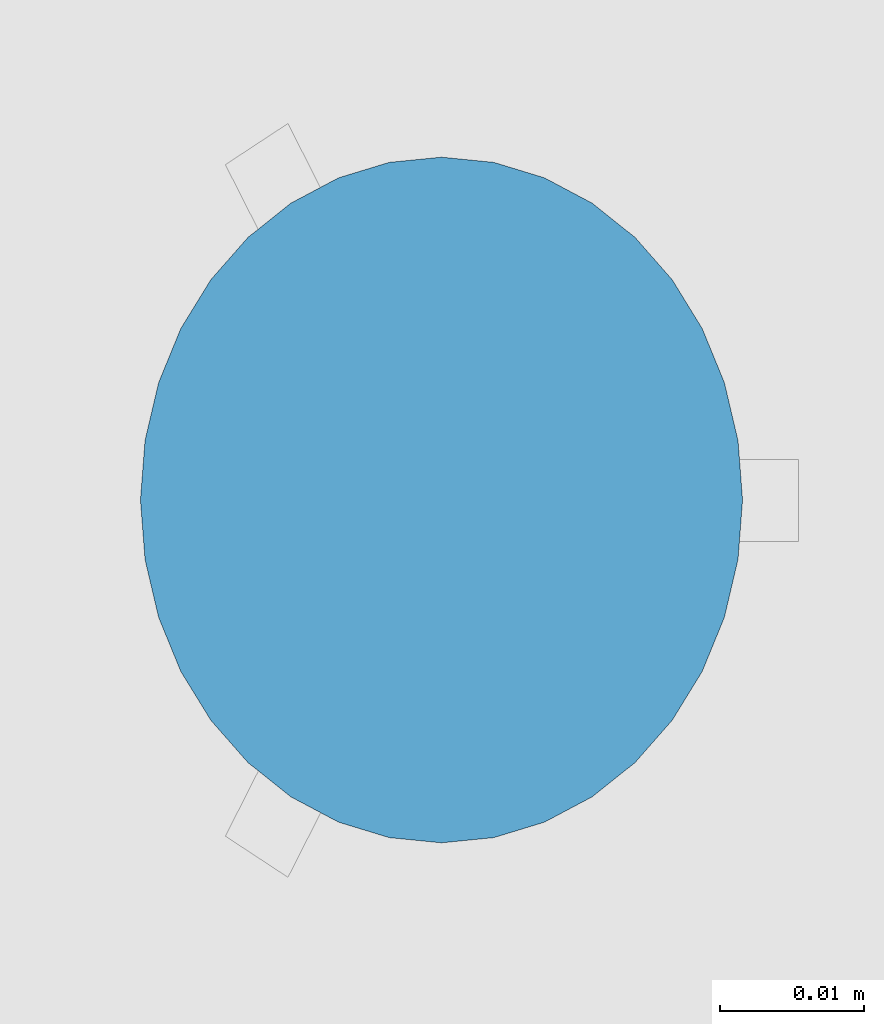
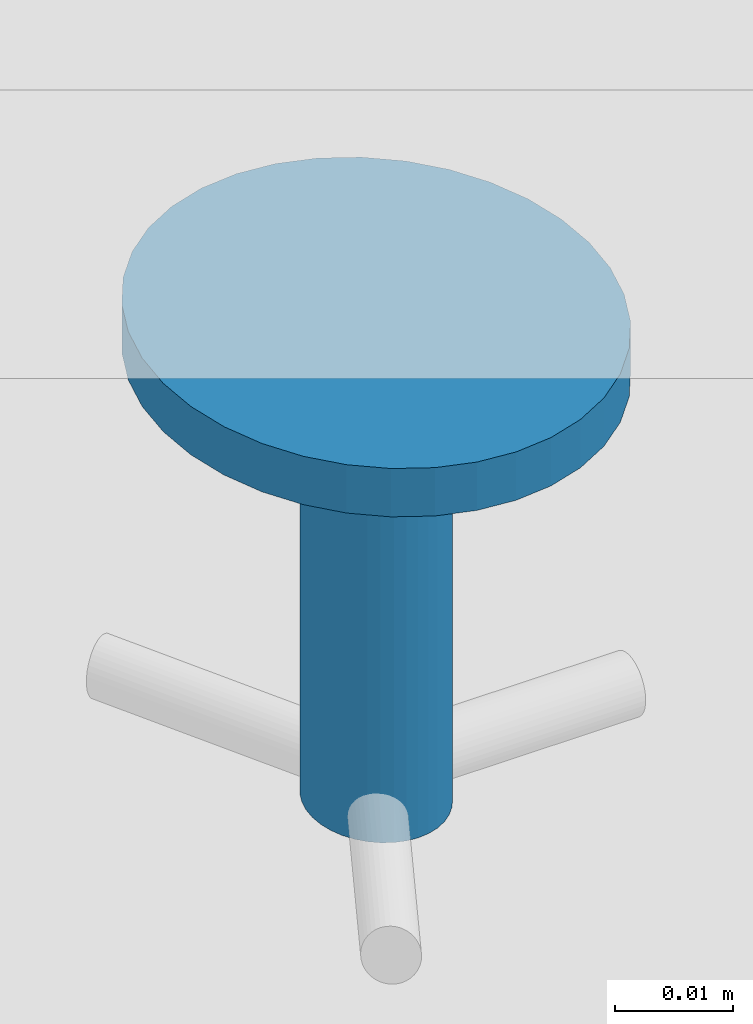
# One storey, part 181 of 788: 1 building element part, 1 element without a shape of its own.
"""IFC2X3 building model written with IfcOpenShell, lengths in millimetres."""

from ifc_helpers import new_model, entity, si_unit, converted_unit, derived_unit, money_unit, direction, frame, origin_with_axes, place, context, subcontext, project, spatial, faceted_brep, source, transform, mapped, material, type_object, element, aggregate, save


model = new_model("IFC2X3")

# Units and contexts
model_context = context("Model", 3, precision=0.01, world=origin_with_axes(), true_north=direction((0.0, 1.0)))
plan_context = context("Plan", 3, precision=0.01, world=origin_with_axes(), true_north=direction((0.0, 1.0)))
body_context = subcontext(model_context, "Body", "Model", "MODEL_VIEW")
ifc_project = project(units=[si_unit("LENGTHUNIT", "METRE", prefix="MILLI"), si_unit("AREAUNIT", "SQUARE_METRE"), si_unit("VOLUMEUNIT", "CUBIC_METRE"), converted_unit("PLANEANGLEUNIT", "DEGREE", entity("IfcPlaneAngleMeasure", 0.0174532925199), si_unit("PLANEANGLEUNIT", "RADIAN"), dimensions=[0, 0, 0, 0, 0, 0, 0]), money_unit("EUR"), converted_unit("TIMEUNIT", "Year", entity("IfcTimeMeasure", 31556926.0), si_unit("TIMEUNIT", "SECOND"), dimensions=[0, 0, 1, 0, 0, 0, 0]), si_unit("MASSUNIT", "GRAM", prefix="KILO"), si_unit("THERMODYNAMICTEMPERATUREUNIT", "DEGREE_CELSIUS"), si_unit("LUMINOUSINTENSITYUNIT", "LUMEN"), si_unit("ENERGYUNIT", "JOULE", prefix="MEGA"), derived_unit("THERMALCONDUCTANCEUNIT", [(si_unit("POWERUNIT", "WATT"), 1), (si_unit("LENGTHUNIT", "METRE"), -1), (si_unit("THERMODYNAMICTEMPERATUREUNIT", "KELVIN"), -1)]), derived_unit("SPECIFICHEATCAPACITYUNIT", [(si_unit("ENERGYUNIT", "JOULE"), 1), (si_unit("MASSUNIT", "GRAM", prefix="KILO"), -1), (si_unit("THERMODYNAMICTEMPERATUREUNIT", "KELVIN"), -1)]), derived_unit("MASSDENSITYUNIT", [(si_unit("MASSUNIT", "GRAM", prefix="KILO"), 1), (si_unit("VOLUMEUNIT", "CUBIC_METRE"), -1)])], contexts=[model_context, plan_context])

# Site, building, storey
site_placement = place(None, origin_with_axes())
site = spatial("IfcSite", under=ifc_project, at=site_placement, Name="Site", CompositionType="ELEMENT")
building_placement = place(site_placement, origin_with_axes())
building = spatial("IfcBuilding", under=site, at=building_placement, Name="Naam gebouw", CompositionType="ELEMENT")
storey_placement = place(building_placement, origin_with_axes())
storey = spatial("IfcBuildingStorey", under=building, at=storey_placement, Name="Begane grond", CompositionType="ELEMENT", Elevation=0.0)

# Proxy, building element part
building_element_proxy_type = type_object("IfcBuildingElementProxyType", Name="plafondhaak", PredefinedType="NOTDEFINED")
proxy_placement = place(storey_placement, frame((11078.5483177, 20515.4627379, 1221.0), z_axis=(0.0, 0.0, 1.0), x_axis=(1.0, 0.0, 0.0)))
proxy = element("IfcBuildingElementProxy", 1, at=proxy_placement, inside=storey, type_object=building_element_proxy_type, Name="garderobehaak")
ifc_material = material(Name="_Dichte arcering")
shared_shape = source(origin_with_axes(), body_context, "Body", "Brep", [
    faceted_brep([(-17.5871200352, 3.81461944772, 50.0), (-17.5871200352, 3.81461944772, 45.0), (-14.2952839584, 5.56266277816, 45.0), (-14.2952839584, 5.56266277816, 50.0), (-21.0954971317, 2.74408618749, 50.0), (-21.0954971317, 2.74408618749, 45.0), (-5.13338153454, 17.9967404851, 45.0), (-6.66838990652, 14.2480494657, 45.0), (-8.75169938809, 10.8598540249, 45.0), (-11.3200096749, 7.93510276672, 45.0), (-24.7138149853, 2.38359060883, 45.0), (-28.3321328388, 2.74408618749, 45.0), (-31.8405099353, 3.81461944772, 45.0), (-35.1323460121, 5.56266277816, 45.0), (-38.1076202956, 7.93510276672, 45.0), (-40.6759305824, 10.8598540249, 45.0), (-42.759240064, 14.2480494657, 45.0), (-44.294248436, 17.9967404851, 45.0), (-45.2343152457, 21.9920250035, 45.0), (-45.550877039, 26.1125083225, 45.0), (-45.2343152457, 30.2329916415, 45.0), (-44.294248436, 34.2282761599, 45.0), (-42.759240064, 37.9769671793, 45.0), (-40.6759305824, 41.3651626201, 45.0), (-38.1076202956, 44.2899138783, 45.0), (-35.1323460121, 46.6623538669, 45.0), (-31.8405099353, 48.4103971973, 45.0), (-28.3321328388, 49.4809304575, 45.0), (-24.7138149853, 49.8414260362, 45.0), (-21.0954971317, 49.4809304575, 45.0), (-17.5871200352, 48.4103971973, 45.0), (-14.2952839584, 46.6623538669, 45.0), (-11.3200096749, 44.2899138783, 45.0), (-8.75169938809, 41.3651626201, 45.0), (-6.66838990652, 37.9769671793, 45.0), (-5.13338153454, 34.2282761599, 45.0), (-4.19331472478, 30.2329916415, 45.0), (-3.87675293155, 26.1125083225, 45.0), (-4.19331472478, 21.9920250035, 45.0), (-24.7138149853, 18.9938330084, 45.0), (-23.6283196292, 19.101981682, 45.0), (-22.5758065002, 19.4231416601, 45.0), (-21.5882556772, 19.9475546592, 45.0), (-20.6956733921, 20.6592866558, 45.0), (-19.9251803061, 21.5367120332, 45.0), (-19.3001874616, 22.5531706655, 45.0), (-18.83968495, 23.6777779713, 45.0), (-18.5576649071, 24.8763633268, 45.0), (-18.4626963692, 26.1125083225, 45.0), (-18.5576649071, 27.3486533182, 45.0), (-18.83968495, 28.5472386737, 45.0), (-19.3001874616, 29.6718459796, 45.0), (-19.9251803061, 30.6883046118, 45.0), (-20.6956733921, 31.5657299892, 45.0), (-21.5882556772, 32.2774619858, 45.0), (-22.5758065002, 32.8018749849, 45.0), (-23.6283196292, 33.123034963, 45.0), (-24.7138149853, 33.2311836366, 45.0), (-25.7993103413, 33.123034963, 45.0), (-26.8518234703, 32.8018749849, 45.0), (-27.8393742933, 32.2774619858, 45.0), (-28.7319565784, 31.5657299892, 45.0), (-29.5024496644, 30.6883046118, 45.0), (-30.1274425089, 29.6718459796, 45.0), (-30.5879450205, 28.5472386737, 45.0), (-30.8699650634, 27.3486533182, 45.0), (-30.9649336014, 26.1125083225, 45.0), (-30.8699650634, 24.8763633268, 45.0), (-30.5879450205, 23.6777779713, 45.0), (-30.1274425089, 22.5531706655, 45.0), (-29.5024496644, 21.5367120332, 45.0), (-28.7319565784, 20.6592866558, 45.0), (-27.8393742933, 19.9475546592, 45.0), (-26.8518234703, 19.4231416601, 45.0), (-25.7993103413, 19.101981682, 45.0), (-11.3200096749, 7.93510276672, 50.0), (-8.75169938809, 10.8598540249, 50.0), (-6.66838990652, 14.2480494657, 50.0), (-5.13338153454, 17.9967404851, 50.0), (-4.19331472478, 21.9920250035, 50.0), (-3.87675293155, 26.1125083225, 50.0), (-4.19331472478, 30.2329916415, 50.0), (-5.13338153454, 34.2282761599, 50.0), (-6.66838990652, 37.9769671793, 50.0), (-8.75169938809, 41.3651626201, 50.0), (-11.3200096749, 44.2899138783, 50.0), (-14.2952839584, 46.6623538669, 50.0), (-17.5871200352, 48.4103971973, 50.0), (-21.0954971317, 49.4809304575, 50.0), (-24.7138149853, 49.8414260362, 50.0), (-28.3321328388, 49.4809304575, 50.0), (-31.8405099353, 48.4103971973, 50.0), (-35.1323460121, 46.6623538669, 50.0), (-38.1076202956, 44.2899138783, 50.0), (-40.6759305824, 41.3651626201, 50.0), (-42.759240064, 37.9769671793, 50.0), (-44.294248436, 34.2282761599, 50.0), (-45.2343152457, 30.2329916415, 50.0), (-45.550877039, 26.1125083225, 50.0), (-45.2343152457, 21.9920250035, 50.0), (-44.294248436, 17.9967404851, 50.0), (-42.759240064, 14.2480494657, 50.0), (-40.6759305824, 10.8598540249, 50.0), (-38.1076202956, 7.93510276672, 50.0), (-35.1323460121, 5.56266277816, 50.0), (-31.8405099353, 3.81461944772, 50.0), (-28.3321328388, 2.74408618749, 50.0), (-24.7138149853, 2.38359060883, 50.0), (-24.7138149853, 18.9938330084, 0.0), (-23.6283196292, 19.101981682, 0.0), (-22.5758065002, 19.4231416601, 0.0), (-21.5882556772, 19.9475546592, 0.0), (-20.6956733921, 20.6592866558, 0.0), (-19.9251803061, 21.5367120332, 0.0), (-19.3001874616, 22.5531706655, 0.0), (-18.83968495, 23.6777779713, 0.0), (-18.5576649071, 24.8763633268, 0.0), (-18.4626963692, 26.1125083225, 0.0), (-18.5576649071, 27.3486533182, 0.0), (-18.83968495, 28.5472386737, 0.0), (-19.3001874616, 29.6718459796, 0.0), (-19.9251803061, 30.6883046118, 0.0), (-20.6956733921, 31.5657299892, 0.0), (-21.5882556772, 32.2774619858, 0.0), (-22.5758065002, 32.8018749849, 0.0), (-23.6283196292, 33.123034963, 0.0), (-24.7138149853, 33.2311836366, 0.0), (-25.7993103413, 33.123034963, 0.0), (-26.8518234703, 32.8018749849, 0.0), (-27.8393742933, 32.2774619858, 0.0), (-28.7319565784, 31.5657299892, 0.0), (-29.5024496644, 30.6883046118, 0.0), (-30.1274425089, 29.6718459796, 0.0), (-30.5879450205, 28.5472386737, 0.0), (-30.8699650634, 27.3486533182, 0.0), (-30.9649336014, 26.1125083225, 0.0), (-30.8699650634, 24.8763633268, 0.0), (-30.5879450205, 23.6777779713, 0.0), (-30.1274425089, 22.5531706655, 0.0), (-29.5024496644, 21.5367120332, 0.0), (-28.7319565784, 20.6592866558, 0.0), (-27.8393742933, 19.9475546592, 0.0), (-26.8518234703, 19.4231416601, 0.0), (-25.7993103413, 19.101981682, 0.0)], [[[0, 1, 2, 3]], [[0, 4, 5, 1]], [[6, 7, 8, 9, 2, 1, 5, 10, 11, 12, 13, 14, 15, 16, 17, 18, 19, 20, 21, 22, 23, 24, 25, 26, 27, 28, 29, 30, 31, 32, 33, 34, 35, 36, 37, 38], [39, 40, 41, 42, 43, 44, 45, 46, 47, 48, 49, 50, 51, 52, 53, 54, 55, 56, 57, 58, 59, 60, 61, 62, 63, 64, 65, 66, 67, 68, 69, 70, 71, 72, 73, 74]], [[3, 2, 9, 75]], [[3, 75, 76, 77, 78, 79, 80, 81, 82, 83, 84, 85, 86, 87, 88, 89, 90, 91, 92, 93, 94, 95, 96, 97, 98, 99, 100, 101, 102, 103, 104, 105, 106, 107, 4, 0]], [[107, 10, 5, 4]], [[77, 7, 6, 78]], [[76, 8, 7, 77]], [[9, 8, 76, 75]], [[106, 11, 10, 107]], [[105, 12, 11, 106]], [[104, 13, 12, 105]], [[103, 14, 13, 104]], [[103, 102, 15, 14]], [[102, 101, 16, 15]], [[100, 17, 16, 101]], [[99, 18, 17, 100]], [[98, 19, 18, 99]], [[97, 20, 19, 98]], [[96, 21, 20, 97]], [[95, 22, 21, 96]], [[94, 23, 22, 95]], [[93, 24, 23, 94]], [[92, 25, 24, 93]], [[91, 26, 25, 92]], [[90, 27, 26, 91]], [[89, 28, 27, 90]], [[88, 29, 28, 89]], [[30, 29, 88, 87]], [[31, 30, 87, 86]], [[32, 31, 86, 85]], [[33, 32, 85, 84]], [[83, 34, 33, 84]], [[82, 35, 34, 83]], [[81, 36, 35, 82]], [[80, 37, 36, 81]], [[79, 38, 37, 80]], [[78, 6, 38, 79]], [[40, 39, 108, 109]], [[41, 40, 109, 110]], [[110, 111, 42, 41]], [[43, 42, 111, 112]], [[112, 113, 44, 43]], [[113, 114, 45, 44]], [[114, 115, 46, 45]], [[47, 46, 115, 116]], [[116, 117, 48, 47]], [[117, 118, 49, 48]], [[118, 119, 50, 49]], [[119, 120, 51, 50]], [[120, 121, 52, 51]], [[53, 52, 121, 122]], [[122, 123, 54, 53]], [[123, 124, 55, 54]], [[124, 125, 56, 55]], [[125, 126, 57, 56]], [[58, 57, 126, 127]], [[59, 58, 127, 128]], [[60, 59, 128, 129]], [[129, 130, 61, 60]], [[130, 131, 62, 61]], [[131, 132, 63, 62]], [[64, 63, 132, 133]], [[65, 64, 133, 134]], [[66, 65, 134, 135]], [[135, 136, 67, 66]], [[68, 67, 136, 137]], [[137, 138, 69, 68]], [[70, 69, 138, 139]], [[71, 70, 139, 140]], [[72, 71, 140, 141]], [[73, 72, 141, 142]], [[74, 73, 142, 143]], [[39, 74, 143, 108]], [[109, 108, 143, 142, 141, 140, 139, 138, 137, 136, 135, 134, 133, 132, 131, 130, 129, 128, 127, 126, 125, 124, 123, 122, 121, 120, 119, 118, 117, 116, 115, 114, 113, 112, 111, 110]]]),
])
building_element_part_placement = place(proxy_placement, origin_with_axes())
building_element_part = element("IfcBuildingElementPart", 2, at=building_element_part_placement, material=ifc_material, Name="_Dichte arcering", context=body_context, shape_type="MappedRepresentation", body=[
    mapped(shared_shape, transform((0.0, 0.0, 0.0))),
])
aggregate(proxy, [building_element_part])

save(model, "model.ifc")
